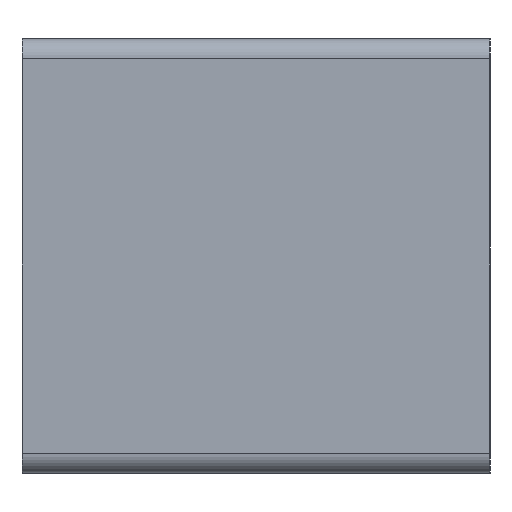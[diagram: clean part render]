
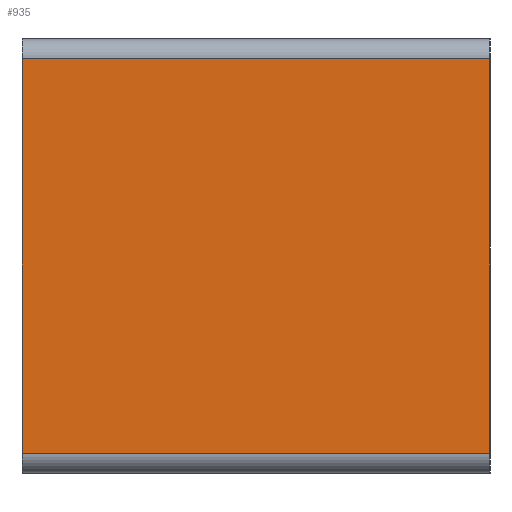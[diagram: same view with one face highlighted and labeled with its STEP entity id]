
A CAD part, left-side view. The second image highlights one B-rep face of the part: STEP entity #935.
In plain terms, the highlighted planar face has unit normal (-1, 0, 0).
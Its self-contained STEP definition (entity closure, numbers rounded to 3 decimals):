
#595 = CARTESIAN_POINT ( 'NONE',  ( -214.996, 437.5, 92.008 ) ) ;
#611 = PLANE ( 'NONE',  #1458 ) ;
#745 = DIRECTION ( 'NONE',  ( 0., 1., 0. ) ) ;
#842 = LINE ( 'NONE', #5594, #4330 ) ;
#935 = ADVANCED_FACE ( 'NONE', ( #5045 ), #611, .F. ) ;
#1037 = VERTEX_POINT ( 'NONE', #4819 ) ;
#1048 = CARTESIAN_POINT ( 'NONE',  ( -214.996, 367.5, 30.008 ) ) ;
#1243 = VECTOR ( 'NONE', #6061, 1000. ) ;
#1250 = EDGE_CURVE ( 'NONE', #2490, #1037, #1465, .T. ) ;
#1368 = EDGE_CURVE ( 'NONE', #3660, #4843, #5076, .T. ) ;
#1458 = AXIS2_PLACEMENT_3D ( 'NONE', #1048, #7547, #2511 ) ;
#1465 = LINE ( 'NONE', #3941, #6775 ) ;
#2241 = CARTESIAN_POINT ( 'NONE',  ( -214.996, 367.5, 92.008 ) ) ;
#2242 = CARTESIAN_POINT ( 'NONE',  ( -214.996, 367.5, 30.008 ) ) ;
#2281 = EDGE_CURVE ( 'NONE', #3660, #1037, #8373, .T. ) ;
#2471 = CARTESIAN_POINT ( 'NONE',  ( -214.996, 437.5, 33.008 ) ) ;
#2490 = VERTEX_POINT ( 'NONE', #2471 ) ;
#2511 = DIRECTION ( 'NONE',  ( 0., 0., 1. ) ) ;
#3660 = VERTEX_POINT ( 'NONE', #7285 ) ;
#3895 = EDGE_LOOP ( 'NONE', ( #6619, #8056, #8597, #8406 ) ) ;
#3941 = CARTESIAN_POINT ( 'NONE',  ( -214.996, 367.5, 33.008 ) ) ;
#4330 = VECTOR ( 'NONE', #8175, 1000. ) ;
#4562 = DIRECTION ( 'NONE',  ( 0., -1., 0. ) ) ;
#4819 = CARTESIAN_POINT ( 'NONE',  ( -214.996, 367.5, 33.008 ) ) ;
#4843 = VERTEX_POINT ( 'NONE', #595 ) ;
#5045 = FACE_OUTER_BOUND ( 'NONE', #3895, .T. ) ;
#5076 = LINE ( 'NONE', #2241, #5286 ) ;
#5286 = VECTOR ( 'NONE', #745, 1000. ) ;
#5594 = CARTESIAN_POINT ( 'NONE',  ( -214.996, 437.5, 30.008 ) ) ;
#6061 = DIRECTION ( 'NONE',  ( 0., 0., -1. ) ) ;
#6220 = EDGE_CURVE ( 'NONE', #4843, #2490, #842, .T. ) ;
#6619 = ORIENTED_EDGE ( 'NONE', *, *, #6220, .T. ) ;
#6775 = VECTOR ( 'NONE', #4562, 1000. ) ;
#7285 = CARTESIAN_POINT ( 'NONE',  ( -214.996, 367.5, 92.008 ) ) ;
#7547 = DIRECTION ( 'NONE',  ( 1., 0., 0. ) ) ;
#8056 = ORIENTED_EDGE ( 'NONE', *, *, #1250, .T. ) ;
#8175 = DIRECTION ( 'NONE',  ( 0., 0., -1. ) ) ;
#8373 = LINE ( 'NONE', #2242, #1243 ) ;
#8406 = ORIENTED_EDGE ( 'NONE', *, *, #1368, .T. ) ;
#8597 = ORIENTED_EDGE ( 'NONE', *, *, #2281, .F. ) ;
